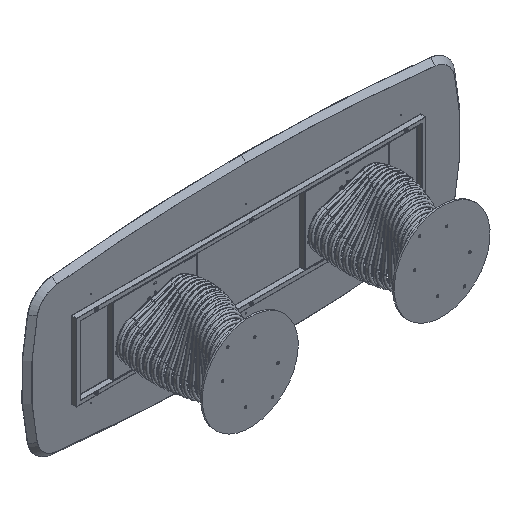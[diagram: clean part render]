
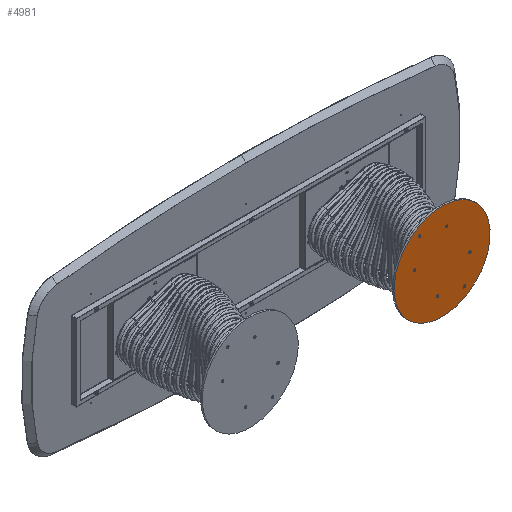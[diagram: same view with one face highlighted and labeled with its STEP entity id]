
A CAD part, isometric view. The second image highlights one B-rep face of the part: STEP entity #4981.
In plain terms, the highlighted planar face has unit normal (0, -1, 0).
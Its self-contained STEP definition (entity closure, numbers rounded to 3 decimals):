
#32 = FACE_BOUND ( 'NONE', #9033, .T. ) ;
#56 = AXIS2_PLACEMENT_3D ( 'NONE', #10984, #16236, #617 ) ;
#68 = CARTESIAN_POINT ( 'NONE',  ( 0., 0., -350. ) ) ;
#212 = DIRECTION ( 'NONE',  ( 0., 0., 1. ) ) ;
#381 = CARTESIAN_POINT ( 'NONE',  ( 150., 0., -151.15 ) ) ;
#478 = DIRECTION ( 'NONE',  ( 0., -1., 0. ) ) ;
#505 = ORIENTED_EDGE ( 'NONE', *, *, #12732, .F. ) ;
#617 = DIRECTION ( 'NONE',  ( 0., 0., -1. ) ) ;
#931 = ORIENTED_EDGE ( 'NONE', *, *, #1735, .F. ) ;
#1134 = DIRECTION ( 'NONE',  ( 0., -1., 0. ) ) ;
#1418 = CARTESIAN_POINT ( 'NONE',  ( 0., 0., 0. ) ) ;
#1493 = ORIENTED_EDGE ( 'NONE', *, *, #7872, .F. ) ;
#1601 = CIRCLE ( 'NONE', #5557, 8.65 ) ;
#1735 = EDGE_CURVE ( 'NONE', #2786, #21302, #21042, .T. ) ;
#1743 = CARTESIAN_POINT ( 'NONE',  ( 150., 0., 142.5 ) ) ;
#1924 = VERTEX_POINT ( 'NONE', #68 ) ;
#2378 = DIRECTION ( 'NONE',  ( 0., -1., 0. ) ) ;
#2530 = EDGE_CURVE ( 'NONE', #19409, #11389, #15628, .T. ) ;
#2720 = EDGE_LOOP ( 'NONE', ( #19121, #15174 ) ) ;
#2725 = EDGE_CURVE ( 'NONE', #21302, #2786, #6741, .T. ) ;
#2741 = CARTESIAN_POINT ( 'NONE',  ( -150., 0., -142.5 ) ) ;
#2786 = VERTEX_POINT ( 'NONE', #15646 ) ;
#3210 = VERTEX_POINT ( 'NONE', #11737 ) ;
#3444 = AXIS2_PLACEMENT_3D ( 'NONE', #2741, #1134, #15042 ) ;
#3449 = CIRCLE ( 'NONE', #4885, 350. ) ;
#3564 = DIRECTION ( 'NONE',  ( 0., 0., -1. ) ) ;
#3679 = EDGE_CURVE ( 'NONE', #11539, #10219, #4184, .T. ) ;
#3876 = CARTESIAN_POINT ( 'NONE',  ( -150., 0., 142.5 ) ) ;
#3982 = VERTEX_POINT ( 'NONE', #19813 ) ;
#4019 = CARTESIAN_POINT ( 'NONE',  ( -150., 0., 133.85 ) ) ;
#4184 = CIRCLE ( 'NONE', #19462, 8.65 ) ;
#4247 = AXIS2_PLACEMENT_3D ( 'NONE', #5531, #14012, #6927 ) ;
#4321 = CIRCLE ( 'NONE', #7940, 8.65 ) ;
#4671 = CARTESIAN_POINT ( 'NONE',  ( -290., 0., -8.65 ) ) ;
#4709 = DIRECTION ( 'NONE',  ( 0., -1., 0. ) ) ;
#4718 = FACE_BOUND ( 'NONE', #5518, .T. ) ;
#4818 = ORIENTED_EDGE ( 'NONE', *, *, #18014, .F. ) ;
#4885 = AXIS2_PLACEMENT_3D ( 'NONE', #10576, #15837, #212 ) ;
#4981 = ADVANCED_FACE ( 'NONE', ( #32, #13944, #13492, #4718, #19068, #10392, #17040 ), #6632, .F. ) ;
#4995 = AXIS2_PLACEMENT_3D ( 'NONE', #3876, #8763, #17566 ) ;
#5500 = CARTESIAN_POINT ( 'NONE',  ( 150., 0., -142.5 ) ) ;
#5518 = EDGE_LOOP ( 'NONE', ( #16620, #1493 ) ) ;
#5531 = CARTESIAN_POINT ( 'NONE',  ( 0., 0., 0. ) ) ;
#5557 = AXIS2_PLACEMENT_3D ( 'NONE', #9420, #2378, #14792 ) ;
#5561 = ORIENTED_EDGE ( 'NONE', *, *, #9038, .F. ) ;
#5985 = VERTEX_POINT ( 'NONE', #6753 ) ;
#6428 = AXIS2_PLACEMENT_3D ( 'NONE', #15206, #11670, #9719 ) ;
#6632 = PLANE ( 'NONE',  #8504 ) ;
#6710 = CIRCLE ( 'NONE', #3444, 8.65 ) ;
#6741 = CIRCLE ( 'NONE', #11063, 8.65 ) ;
#6753 = CARTESIAN_POINT ( 'NONE',  ( -150., 0., -133.85 ) ) ;
#6862 = EDGE_CURVE ( 'NONE', #3210, #1924, #20262, .T. ) ;
#6927 = DIRECTION ( 'NONE',  ( 0., 0., 1. ) ) ;
#7368 = CIRCLE ( 'NONE', #13196, 8.65 ) ;
#7405 = VERTEX_POINT ( 'NONE', #20138 ) ;
#7872 = EDGE_CURVE ( 'NONE', #15501, #11435, #7368, .T. ) ;
#7940 = AXIS2_PLACEMENT_3D ( 'NONE', #5500, #12453, #15679 ) ;
#8340 = DIRECTION ( 'NONE',  ( 0., 0., 1. ) ) ;
#8405 = EDGE_CURVE ( 'NONE', #5985, #3982, #6710, .T. ) ;
#8434 = CARTESIAN_POINT ( 'NONE',  ( 150., 0., 142.5 ) ) ;
#8504 = AXIS2_PLACEMENT_3D ( 'NONE', #1418, #17262, #8340 ) ;
#8763 = DIRECTION ( 'NONE',  ( 0., -1., 0. ) ) ;
#9033 = EDGE_LOOP ( 'NONE', ( #16762, #20153 ) ) ;
#9038 = EDGE_CURVE ( 'NONE', #20814, #7405, #14286, .T. ) ;
#9140 = CARTESIAN_POINT ( 'NONE',  ( -290., 0., 0. ) ) ;
#9309 = DIRECTION ( 'NONE',  ( 0., -1., 0. ) ) ;
#9385 = AXIS2_PLACEMENT_3D ( 'NONE', #1743, #14045, #3564 ) ;
#9420 = CARTESIAN_POINT ( 'NONE',  ( -150., 0., -142.5 ) ) ;
#9719 = DIRECTION ( 'NONE',  ( 0., 0., -1. ) ) ;
#9997 = ORIENTED_EDGE ( 'NONE', *, *, #3679, .F. ) ;
#10081 = CIRCLE ( 'NONE', #4995, 8.65 ) ;
#10219 = VERTEX_POINT ( 'NONE', #381 ) ;
#10221 = DIRECTION ( 'NONE',  ( 0., -1., 0. ) ) ;
#10235 = CARTESIAN_POINT ( 'NONE',  ( 290., 0., -8.65 ) ) ;
#10392 = FACE_BOUND ( 'NONE', #11394, .T. ) ;
#10576 = CARTESIAN_POINT ( 'NONE',  ( 0., 0., 0. ) ) ;
#10984 = CARTESIAN_POINT ( 'NONE',  ( -150., 0., 142.5 ) ) ;
#11063 = AXIS2_PLACEMENT_3D ( 'NONE', #8434, #4709, #15409 ) ;
#11102 = EDGE_LOOP ( 'NONE', ( #18032, #931 ) ) ;
#11389 = VERTEX_POINT ( 'NONE', #4671 ) ;
#11394 = EDGE_LOOP ( 'NONE', ( #5561, #21257 ) ) ;
#11435 = VERTEX_POINT ( 'NONE', #10235 ) ;
#11539 = VERTEX_POINT ( 'NONE', #20731 ) ;
#11649 = CARTESIAN_POINT ( 'NONE',  ( 290., 0., 0. ) ) ;
#11670 = DIRECTION ( 'NONE',  ( 0., -1., 0. ) ) ;
#11737 = CARTESIAN_POINT ( 'NONE',  ( 0., 0., 350. ) ) ;
#11819 = AXIS2_PLACEMENT_3D ( 'NONE', #19922, #9309, #12950 ) ;
#12049 = CARTESIAN_POINT ( 'NONE',  ( 150., 0., -142.5 ) ) ;
#12149 = DIRECTION ( 'NONE',  ( 0., 0., -1. ) ) ;
#12453 = DIRECTION ( 'NONE',  ( 0., -1., 0. ) ) ;
#12731 = EDGE_LOOP ( 'NONE', ( #4818, #9997 ) ) ;
#12732 = EDGE_CURVE ( 'NONE', #3982, #5985, #1601, .T. ) ;
#12950 = DIRECTION ( 'NONE',  ( 0., 0., -1. ) ) ;
#13196 = AXIS2_PLACEMENT_3D ( 'NONE', #11649, #22003, #20313 ) ;
#13492 = FACE_BOUND ( 'NONE', #12731, .T. ) ;
#13944 = FACE_BOUND ( 'NONE', #17914, .T. ) ;
#14012 = DIRECTION ( 'NONE',  ( 0., 1., 0. ) ) ;
#14045 = DIRECTION ( 'NONE',  ( 0., -1., 0. ) ) ;
#14286 = CIRCLE ( 'NONE', #56, 8.65 ) ;
#14792 = DIRECTION ( 'NONE',  ( 0., 0., -1. ) ) ;
#14858 = EDGE_CURVE ( 'NONE', #1924, #3210, #3449, .T. ) ;
#14990 = EDGE_CURVE ( 'NONE', #11389, #19409, #19093, .T. ) ;
#15042 = DIRECTION ( 'NONE',  ( 0., 0., -1. ) ) ;
#15174 = ORIENTED_EDGE ( 'NONE', *, *, #6862, .F. ) ;
#15206 = CARTESIAN_POINT ( 'NONE',  ( 290., 0., 0. ) ) ;
#15409 = DIRECTION ( 'NONE',  ( 0., 0., -1. ) ) ;
#15501 = VERTEX_POINT ( 'NONE', #18082 ) ;
#15628 = CIRCLE ( 'NONE', #16707, 8.65 ) ;
#15646 = CARTESIAN_POINT ( 'NONE',  ( 150., 0., 151.15 ) ) ;
#15679 = DIRECTION ( 'NONE',  ( 0., 0., -1. ) ) ;
#15837 = DIRECTION ( 'NONE',  ( 0., 1., 0. ) ) ;
#16236 = DIRECTION ( 'NONE',  ( 0., -1., 0. ) ) ;
#16620 = ORIENTED_EDGE ( 'NONE', *, *, #16911, .F. ) ;
#16707 = AXIS2_PLACEMENT_3D ( 'NONE', #9140, #478, #20896 ) ;
#16762 = ORIENTED_EDGE ( 'NONE', *, *, #14990, .F. ) ;
#16911 = EDGE_CURVE ( 'NONE', #11435, #15501, #19192, .T. ) ;
#17040 = FACE_OUTER_BOUND ( 'NONE', #2720, .T. ) ;
#17262 = DIRECTION ( 'NONE',  ( 0., 1., 0. ) ) ;
#17566 = DIRECTION ( 'NONE',  ( 0., 0., -1. ) ) ;
#17914 = EDGE_LOOP ( 'NONE', ( #505, #20345 ) ) ;
#18014 = EDGE_CURVE ( 'NONE', #10219, #11539, #4321, .T. ) ;
#18032 = ORIENTED_EDGE ( 'NONE', *, *, #2725, .F. ) ;
#18082 = CARTESIAN_POINT ( 'NONE',  ( 290., 0., 8.65 ) ) ;
#19068 = FACE_BOUND ( 'NONE', #11102, .T. ) ;
#19093 = CIRCLE ( 'NONE', #11819, 8.65 ) ;
#19121 = ORIENTED_EDGE ( 'NONE', *, *, #14858, .F. ) ;
#19192 = CIRCLE ( 'NONE', #6428, 8.65 ) ;
#19409 = VERTEX_POINT ( 'NONE', #19873 ) ;
#19462 = AXIS2_PLACEMENT_3D ( 'NONE', #12049, #10221, #12149 ) ;
#19813 = CARTESIAN_POINT ( 'NONE',  ( -150., 0., -151.15 ) ) ;
#19873 = CARTESIAN_POINT ( 'NONE',  ( -290., 0., 8.65 ) ) ;
#19922 = CARTESIAN_POINT ( 'NONE',  ( -290., 0., 0. ) ) ;
#19940 = CARTESIAN_POINT ( 'NONE',  ( 150., 0., 133.85 ) ) ;
#20092 = EDGE_CURVE ( 'NONE', #7405, #20814, #10081, .T. ) ;
#20138 = CARTESIAN_POINT ( 'NONE',  ( -150., 0., 151.15 ) ) ;
#20153 = ORIENTED_EDGE ( 'NONE', *, *, #2530, .F. ) ;
#20262 = CIRCLE ( 'NONE', #4247, 350. ) ;
#20313 = DIRECTION ( 'NONE',  ( 0., 0., -1. ) ) ;
#20345 = ORIENTED_EDGE ( 'NONE', *, *, #8405, .F. ) ;
#20731 = CARTESIAN_POINT ( 'NONE',  ( 150., 0., -133.85 ) ) ;
#20814 = VERTEX_POINT ( 'NONE', #4019 ) ;
#20896 = DIRECTION ( 'NONE',  ( 0., 0., -1. ) ) ;
#21042 = CIRCLE ( 'NONE', #9385, 8.65 ) ;
#21257 = ORIENTED_EDGE ( 'NONE', *, *, #20092, .F. ) ;
#21302 = VERTEX_POINT ( 'NONE', #19940 ) ;
#22003 = DIRECTION ( 'NONE',  ( 0., -1., 0. ) ) ;
